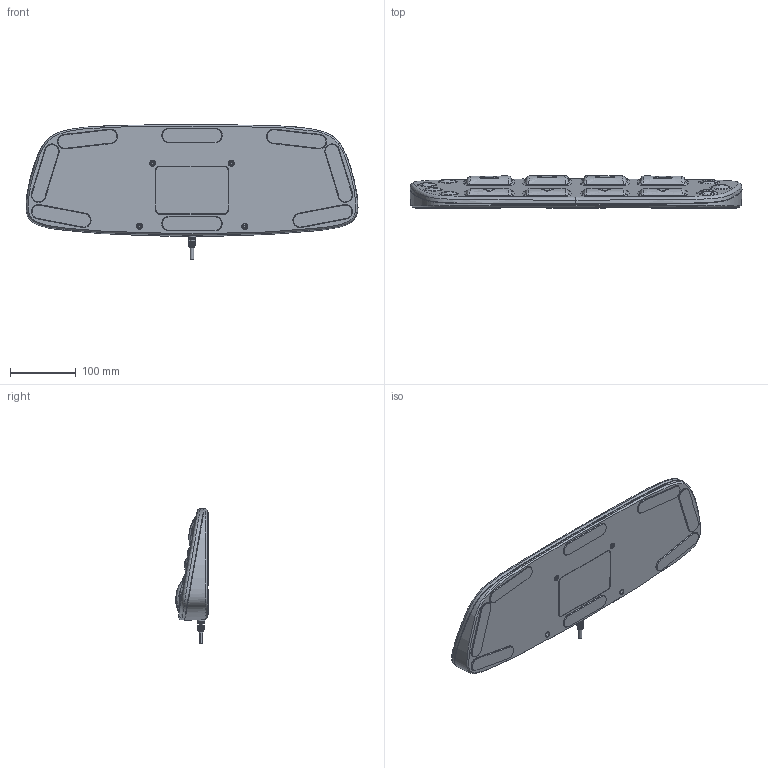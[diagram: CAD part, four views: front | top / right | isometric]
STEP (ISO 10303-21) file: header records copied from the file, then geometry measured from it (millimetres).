
FILE_DESCRIPTION (( 'STEP AP203' ), '1' );
FILE_NAME ('3D_TFS7-A.STEP', '2018-07-06T02:47:02', ( '' ), ( '' ), 'SwSTEP 2.0', 'SolidWorks 2015', '' );
FILE_SCHEMA (( 'CONFIG_CONTROL_DESIGN' ));
Length unit declared in the file: millimetre
Products named in the file (1): 3D_TFS7-A
Bounding box: 506.86 x 49.4 x 205.77 mm (x, y, z)
Volume: 2466474.9 mm3; surface area: 388262 mm2
Topology: 15 solids, 15 shells, 1815 faces, 4373 edges, 2633 vertices
Faces by surface type: bspline 1335, cylinder 244, plane 234, cone 2
Entity records: 100156 total; most frequent: CARTESIAN_POINT 66155, ORIENTED_EDGE 8694, DIRECTION 5051, EDGE_CURVE 4347, VERTEX_POINT 2633, AXIS2_PLACEMENT_3D 2188, EDGE_LOOP 1886, ADVANCED_FACE 1815
